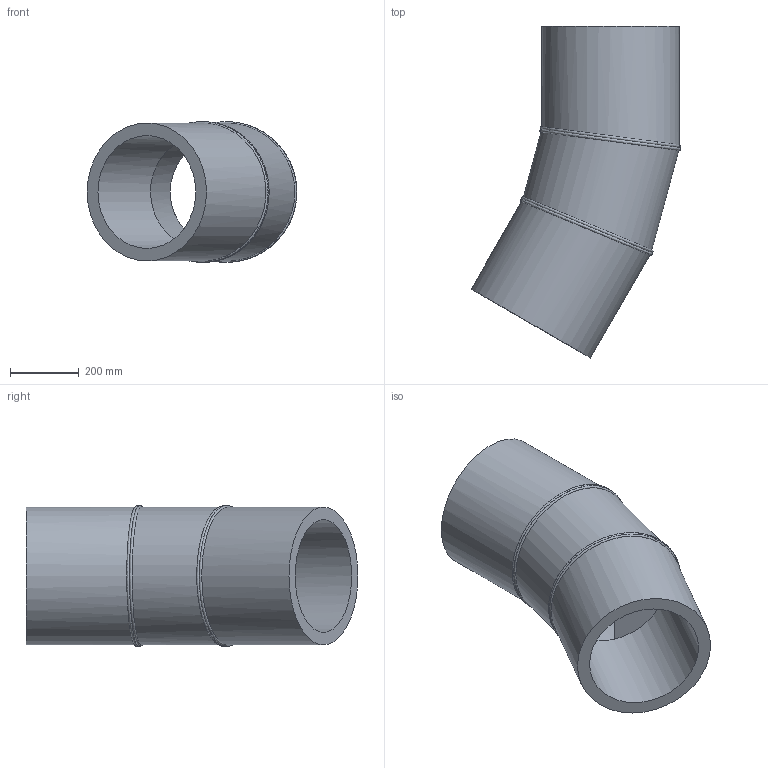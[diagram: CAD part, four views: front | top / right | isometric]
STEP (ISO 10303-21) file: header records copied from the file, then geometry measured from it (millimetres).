
FILE_DESCRIPTION(/* description */ ('Unknown'),/* implementation_level */ '2;1');
FILE_NAME(/* name */ 'Curva 30° a settore DE400 SDR11',/* time_stamp */ '2022-07-26T08:50:31+02:00',/* author */ ('Unknown'),/* organization */ ('Unknown'),/* preprocessor_version */ 'ST-DEVELOPER v18.102',/* originating_system */ 'Solid Edge',/* authorisation */ 'Unknown');
FILE_SCHEMA (('AUTOMOTIVE_DESIGN {1 0 10303 214 3 1 1}'));
Length unit declared in the file: millimetre
Products named in the file (3): Curva 30° a settore DE400 SDR11; Tubo x Gomito 30° DE400 SDR11 - 1; Tubo x Gomito 30° DE400 SDR11 - 2
Assembly tree (3 placements, depth 2):
  Curva 30° a settore DE400 SDR11
    Tubo x Gomito 30° DE400 SDR11 - 1  x2
    Tubo x Gomito 30° DE400 SDR11 - 2
Bounding box: 608.34 x 962.65 x 407.99 mm (x, y, z)
Volume: 38090519.8 mm3; surface area: 2365805 mm2
Topology: 3 solids, 3 shells, 24 faces, 51 edges, 33 vertices
Faces by surface type: cylinder 14, plane 6, bspline 4
Full cylindrical faces by diameter (mm): 327.4 x3, 400 x3
Entity records: 2376 total; most frequent: CARTESIAN_POINT 1981, DIRECTION 70, ORIENTED_EDGE 52, AXIS2_PLACEMENT_3D 35, EDGE_LOOP 28, FACE_BOUND 28, EDGE_CURVE 26, VERTEX_POINT 20
